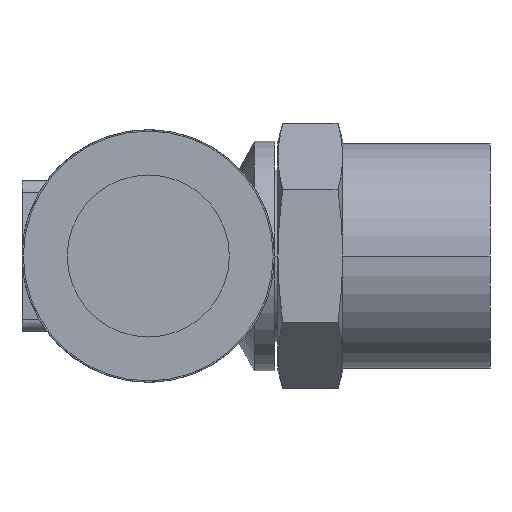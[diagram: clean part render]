
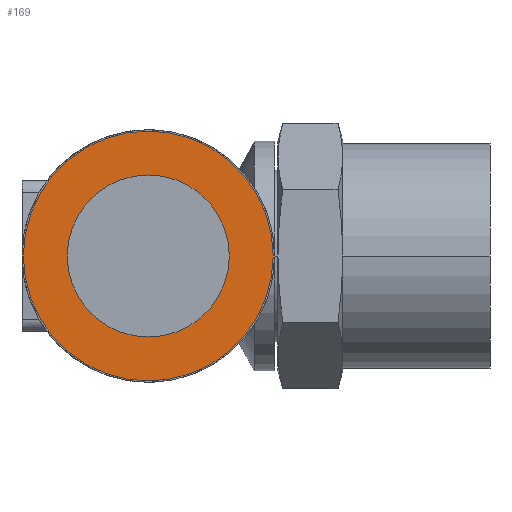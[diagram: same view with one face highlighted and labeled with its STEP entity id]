
A CAD part, left-side view. The second image highlights one B-rep face of the part: STEP entity #169.
In plain terms, the highlighted planar face has unit normal (-1, 0, 0).
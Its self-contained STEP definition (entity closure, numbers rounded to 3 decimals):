
#169 = ADVANCED_FACE( '', ( #369, #370 ), #371, .T. );
#369 = FACE_BOUND( '', #570, .T. );
#370 = FACE_OUTER_BOUND( '', #571, .T. );
#371 = PLANE( '', #572 );
#570 = EDGE_LOOP( '', ( #1295, #1296 ) );
#571 = EDGE_LOOP( '', ( #1297, #1298 ) );
#572 = AXIS2_PLACEMENT_3D( '', #1299, #1300, #1301 );
#1295 = ORIENTED_EDGE( '', *, *, #1386, .T. );
#1296 = ORIENTED_EDGE( '', *, *, #1382, .T. );
#1297 = ORIENTED_EDGE( '', *, *, #1305, .T. );
#1298 = ORIENTED_EDGE( '', *, *, #1523, .T. );
#1299 = CARTESIAN_POINT( '', ( -23.6, 24.775, 0. ) );
#1300 = DIRECTION( '', ( -1., 0., 0. ) );
#1301 = DIRECTION( '', ( 0., 1., 0. ) );
#1305 = EDGE_CURVE( '', #1525, #1529, #1531, .T. );
#1382 = EDGE_CURVE( '', #1678, #1675, #1679, .T. );
#1386 = EDGE_CURVE( '', #1675, #1678, #1684, .T. );
#1523 = EDGE_CURVE( '', #1529, #1525, #1885, .T. );
#1525 = VERTEX_POINT( '', #1887 );
#1529 = VERTEX_POINT( '', #1892 );
#1531 = CIRCLE( '', #1895, 9.25 );
#1675 = VERTEX_POINT( '', #2245 );
#1678 = VERTEX_POINT( '', #2249 );
#1679 = CIRCLE( '', #2250, 6. );
#1684 = CIRCLE( '', #2256, 6. );
#1885 = CIRCLE( '', #2918, 9.25 );
#1887 = CARTESIAN_POINT( '', ( -23.6, 29.4, 0. ) );
#1892 = CARTESIAN_POINT( '', ( -23.6, 10.9, 0. ) );
#1895 = AXIS2_PLACEMENT_3D( '', #2924, #2925, #2926 );
#2245 = CARTESIAN_POINT( '', ( -23.6, 26.15, 0. ) );
#2249 = CARTESIAN_POINT( '', ( -23.6, 14.15, 0. ) );
#2250 = AXIS2_PLACEMENT_3D( '', #3056, #3057, #3058 );
#2256 = AXIS2_PLACEMENT_3D( '', #3066, #3067, #3068 );
#2918 = AXIS2_PLACEMENT_3D( '', #3288, #3289, #3290 );
#2924 = CARTESIAN_POINT( '', ( -23.6, 20.15, 0. ) );
#2925 = DIRECTION( '', ( -1., 0., 0. ) );
#2926 = DIRECTION( '', ( 0., 1., 0. ) );
#3056 = CARTESIAN_POINT( '', ( -23.6, 20.15, 0. ) );
#3057 = DIRECTION( '', ( 1., 0., 0. ) );
#3058 = DIRECTION( '', ( 0., 1., 0. ) );
#3066 = CARTESIAN_POINT( '', ( -23.6, 20.15, 0. ) );
#3067 = DIRECTION( '', ( 1., 0., 0. ) );
#3068 = DIRECTION( '', ( 0., 1., 0. ) );
#3288 = CARTESIAN_POINT( '', ( -23.6, 20.15, 0. ) );
#3289 = DIRECTION( '', ( -1., 0., 0. ) );
#3290 = DIRECTION( '', ( 0., 1., 0. ) );
